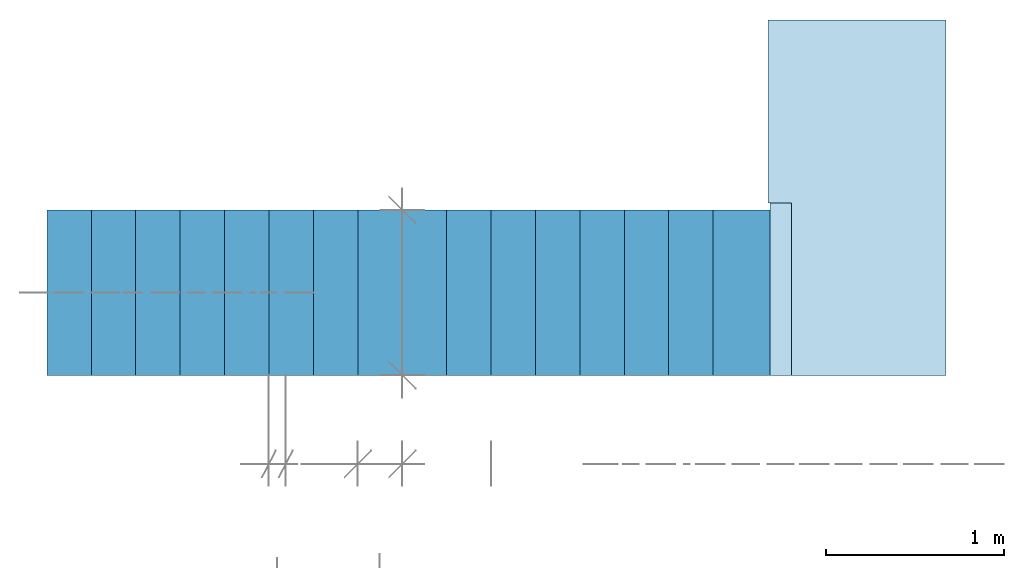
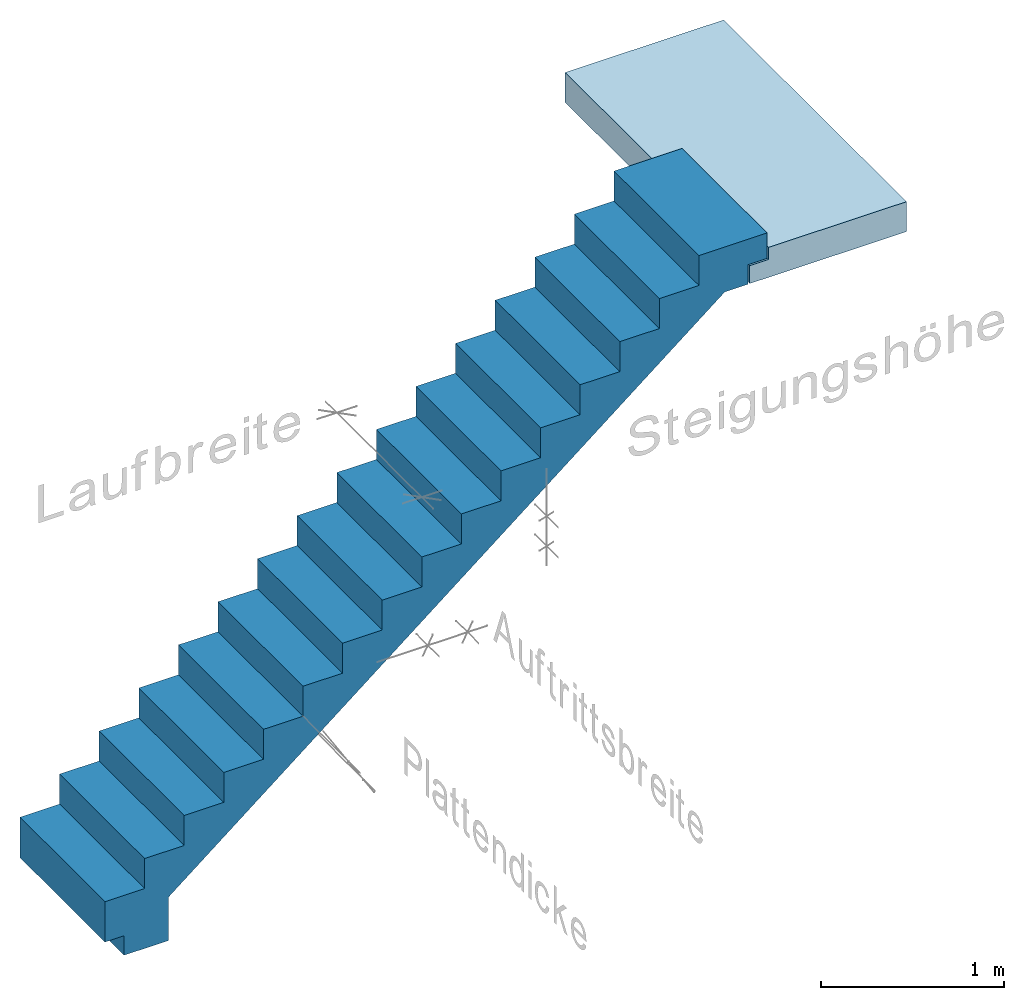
# One storey, part 1 of 5: 1 slab, 1 stair.
"""IFC4 building model written with IfcOpenShell, lengths in metres."""

from ifc_helpers import new_model, entity, si_unit, converted_unit, derived_unit, frame, origin, place, context, subcontext, project, spatial, faceted_brep, element, save


model = new_model("IFC4")

# Units and contexts
model_context = context("Model", 3, precision=1e-05, world=origin())
body_context = subcontext(model_context, "Body", "Model", "MODEL_VIEW")
ifc_project = project(units=[si_unit("LENGTHUNIT", "METRE"), si_unit("AREAUNIT", "SQUARE_METRE"), si_unit("VOLUMEUNIT", "CUBIC_METRE"), si_unit("MASSUNIT", "GRAM", prefix="KILO"), converted_unit("PLANEANGLEUNIT", "DEGREE", entity("IfcPlaneAngleMeasure", 0.0174532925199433), si_unit("PLANEANGLEUNIT", "RADIAN"), dimensions=[0, 0, 0, 0, 0, 0, 0]), derived_unit("THERMALTRANSMITTANCEUNIT", [(si_unit("POWERUNIT", "WATT"), 1), (si_unit("THERMODYNAMICTEMPERATUREUNIT", "KELVIN"), -1), (si_unit("LENGTHUNIT", "METRE"), -2)]), derived_unit("VOLUMETRICFLOWRATEUNIT", [(si_unit("LENGTHUNIT", "METRE"), 3), (converted_unit("TIMEUNIT", "hour", entity("IfcTimeMeasure", 3600.0), si_unit("TIMEUNIT", "SECOND"), dimensions=[0, 0, 1, 0, 0, 0, 0]), -1), (si_unit("LENGTHUNIT", "METRE"), -1)])], contexts=[model_context])

# Site, building, storey
site_placement = place(None, origin())
site = spatial("IfcSite", under=ifc_project, at=site_placement, Name="Liegenschaft", CompositionType="ELEMENT")
building_placement = place(site_placement, origin())
building = spatial("IfcBuilding", under=site, at=building_placement, Name="Gebäude", CompositionType="ELEMENT")
storey_placement = place(building_placement, origin())
storey = spatial("IfcBuildingStorey", under=building, at=storey_placement, Name="Geschoss 02", CompositionType="ELEMENT", Elevation=0.0)

# Slab
slab_placement = place(storey_placement, frame((124.126730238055, -1.05532871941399, 2.90062995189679)))
element("IfcSlab", 1, at=slab_placement, inside=storey, PredefinedType="NOTDEFINED", context=body_context, shape_type="Brep", body=[
    faceted_brep([(0.0, 0.97, 0.2), (0.13, 0.97, 0.2), (0.13, 0.97, 0.12), (0.01, 0.97, 0.12), (0.01, 0.97, 0.0), (0.0, 0.97, 0.0), (0.01, 0.0, 0.12), (0.01, 0.0, 0.0), (0.13, 0.0, 0.12), (0.13, 0.0, 0.2), (0.0, 2.0, 0.2), (0.0, 2.0, 0.0), (1.0, 2.0, 0.2), (1.0, 0.0, 0.2), (1.0, 0.0, 0.0), (1.0, 2.0, 0.0)], [[[0, 1, 2, 3, 4, 5]], [[6, 7, 4, 3]], [[8, 6, 3, 2]], [[9, 8, 2, 1]], [[10, 0, 5, 11]], [[1, 0, 10, 12, 13, 9]], [[5, 4, 7, 14, 15, 11]], [[14, 13, 12, 15]], [[15, 12, 10, 11]], [[8, 9, 13, 14, 7, 6]]], orient=[[False], [False], [False], [False], [False], [False], [False], [False], [False], [False]]),
])

# Stair
stair_placement = place(storey_placement, frame((120.066730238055, -1.05532871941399, -0.2)))
element("IfcStair", 2, at=stair_placement, inside=storey, Name="Treppe", PredefinedType="STRAIGHT_RUN_STAIR", context=body_context, shape_type="Brep", body=[
    faceted_brep([(4.06, 0.93, 3.23), (4.06, 0.0, 3.23), (4.18, 0.0, 3.23), (4.18, 0.93, 3.23), (4.06, 0.0, 3.1), (4.06, 0.93, 3.1), (4.18, 0.0, 3.4), (4.18, 0.93, 3.4), (3.91314059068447, 0.93, 3.1), (3.91314059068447, 0.0, 3.1), (0.4, 0.93, 0.28948752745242), (0.4, 0.0, 0.28948752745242), (0.4, 0.0, 0.0), (0.4, 0.93, 0.0), (0.12, 0.0, 0.0), (0.12, 0.93, 0.0), (0.12, 0.93, 0.13), (0.12, 0.0, 0.13), (0.0, 0.0, 0.13), (0.0, 0.93, 0.13), (0.0, 0.0, 0.4), (0.0, 0.93, 0.4), (0.25, 0.0, 0.4), (0.25, 0.93, 0.4), (0.25, 0.0, 0.6), (0.25, 0.93, 0.6), (0.5, 0.0, 0.6), (0.5, 0.93, 0.6), (0.5, 0.0, 0.8), (0.5, 0.93, 0.8), (0.75, 0.0, 0.8), (0.75, 0.93, 0.8), (0.75, 0.0, 1.0), (0.75, 0.93, 1.0), (1.0, 0.0, 1.0), (1.0, 0.93, 1.0), (1.0, 0.0, 1.2), (1.0, 0.93, 1.2), (1.25, 0.0, 1.2), (1.25, 0.93, 1.2), (1.25, 0.0, 1.4), (1.25, 0.93, 1.4), (1.5, 0.0, 1.4), (1.5, 0.93, 1.4), (1.5, 0.0, 1.6), (1.5, 0.93, 1.6), (1.75, 0.0, 1.6), (1.75, 0.93, 1.6), (1.75, 0.0, 1.8), (1.75, 0.93, 1.8), (2.0, 0.0, 1.8), (2.0, 0.93, 1.8), (2.0, 0.0, 2.0), (2.0, 0.93, 2.0), (2.25, 0.0, 2.0), (2.25, 0.93, 2.0), (2.25, 0.0, 2.2), (2.25, 0.93, 2.2), (2.5, 0.0, 2.2), (2.5, 0.93, 2.2), (2.5, 0.0, 2.4), (2.5, 0.93, 2.4), (2.75, 0.0, 2.4), (2.75, 0.93, 2.4), (2.75, 0.0, 2.6), (2.75, 0.93, 2.6), (3.0, 0.0, 2.6), (3.0, 0.93, 2.6), (3.0, 0.0, 2.8), (3.0, 0.93, 2.8), (3.25, 0.0, 2.8), (3.25, 0.93, 2.8), (3.25, 0.0, 3.0), (3.25, 0.93, 3.0), (3.5, 0.0, 3.0), (3.5, 0.93, 3.0), (3.5, 0.0, 3.2), (3.5, 0.93, 3.2), (3.75, 0.0, 3.2), (3.75, 0.93, 3.2), (3.75, 0.0, 3.4), (3.75, 0.93, 3.4)], [[[0, 1, 2, 3]], [[4, 1, 0, 5]], [[2, 6, 7, 3]], [[5, 8, 9, 4]], [[8, 10, 11, 9]], [[12, 11, 10, 13]], [[14, 12, 13, 15]], [[15, 16, 17, 14]], [[18, 17, 16, 19]], [[20, 18, 19, 21]], [[22, 20, 21, 23]], [[24, 22, 23, 25]], [[26, 24, 25, 27]], [[28, 26, 27, 29]], [[30, 28, 29, 31]], [[32, 30, 31, 33]], [[34, 32, 33, 35]], [[36, 34, 35, 37]], [[38, 36, 37, 39]], [[40, 38, 39, 41]], [[42, 40, 41, 43]], [[44, 42, 43, 45]], [[46, 44, 45, 47]], [[48, 46, 47, 49]], [[50, 48, 49, 51]], [[52, 50, 51, 53]], [[54, 52, 53, 55]], [[56, 54, 55, 57]], [[58, 56, 57, 59]], [[60, 58, 59, 61]], [[62, 60, 61, 63]], [[64, 62, 63, 65]], [[66, 64, 65, 67]], [[68, 66, 67, 69]], [[70, 68, 69, 71]], [[72, 70, 71, 73]], [[74, 72, 73, 75]], [[76, 74, 75, 77]], [[78, 76, 77, 79]], [[80, 78, 79, 81]], [[6, 80, 81, 7]], [[4, 9, 11, 12, 14, 17, 18, 20, 22, 24, 26, 28, 30, 32, 34, 36, 38, 40, 42, 44, 46, 48, 50, 52, 54, 56, 58, 60, 62, 64, 66, 68, 70, 72, 74, 76, 78, 80, 6, 2, 1]], [[3, 7, 81, 79, 77, 75, 73, 71, 69, 67, 65, 63, 61, 59, 57, 55, 53, 51, 49, 47, 45, 43, 41, 39, 37, 35, 33, 31, 29, 27, 25, 23, 21, 19, 16, 15, 13, 10, 8, 5, 0]]], orient=[[False], [False], [False], [False], [False], [False], [False], [False], [False], [False], [False], [False], [False], [False], [False], [False], [False], [False], [False], [False], [False], [False], [False], [False], [False], [False], [False], [False], [False], [False], [False], [False], [False], [False], [False], [False], [False], [False], [False], [False], [False], [False], [False]]),
])

save(model, "model.ifc")
